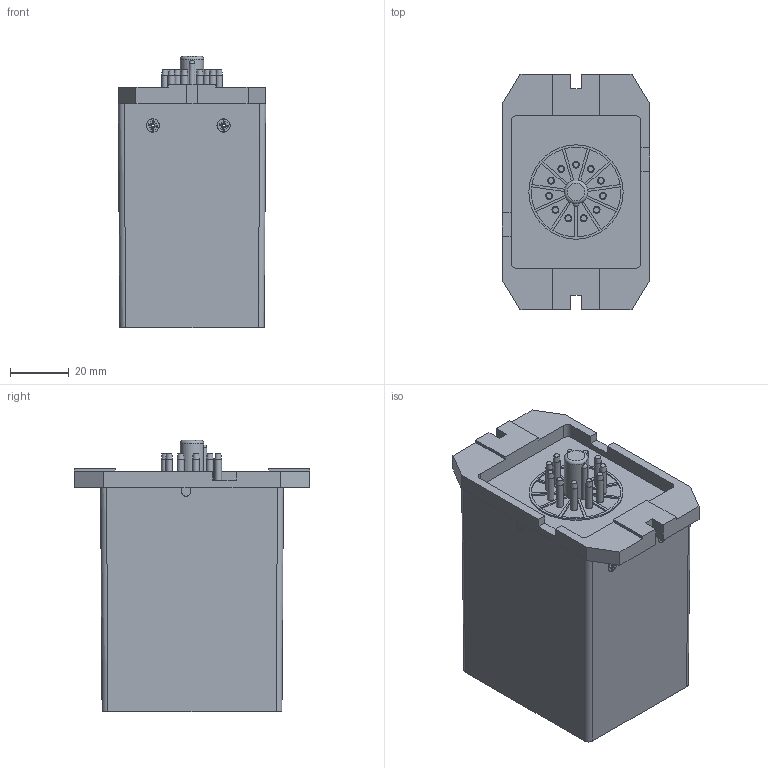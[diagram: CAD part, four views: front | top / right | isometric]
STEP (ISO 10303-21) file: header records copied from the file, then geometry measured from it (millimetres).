
FILE_DESCRIPTION((''),'2;1');
FILE_NAME('D:\yang\Yang cw\SPG 업무\2. DC MOTOR\7. DC MOTOR 브로슈어\SRCE TYPE\SREC TYPE.stp','2015-03-18T13:48:06',('ycw1227'),(''),'Autodesk Inventor 2013','Autodesk Inventor 2013','');
FILE_SCHEMA(('AUTOMOTIVE_DESIGN { 1 0 10303 214 1 1 1 1 }'));
Length unit declared in the file: millimetre
Products named in the file (1): 부품3
Bounding box: 50 x 80 x 92 mm (x, y, z)
Volume: 242428.7 mm3; surface area: 28150.8 mm2
Topology: 1 solids, 1 shells, 308 faces, 813 edges, 527 vertices
Faces by surface type: plane 176, cone 67, cylinder 47, torus 17, sphere 1
Full cylindrical faces by diameter (mm): 2.3 x11, 4.4 x4, 4.5 x4, 8 x1, 32 x1
Entity records: 10047 total; most frequent: CARTESIAN_POINT 2603, ORIENTED_EDGE 1532, DIRECTION 1476, EDGE_CURVE 766, AXIS2_PLACEMENT_3D 547, VERTEX_POINT 518, VECTOR 382, LINE 382
